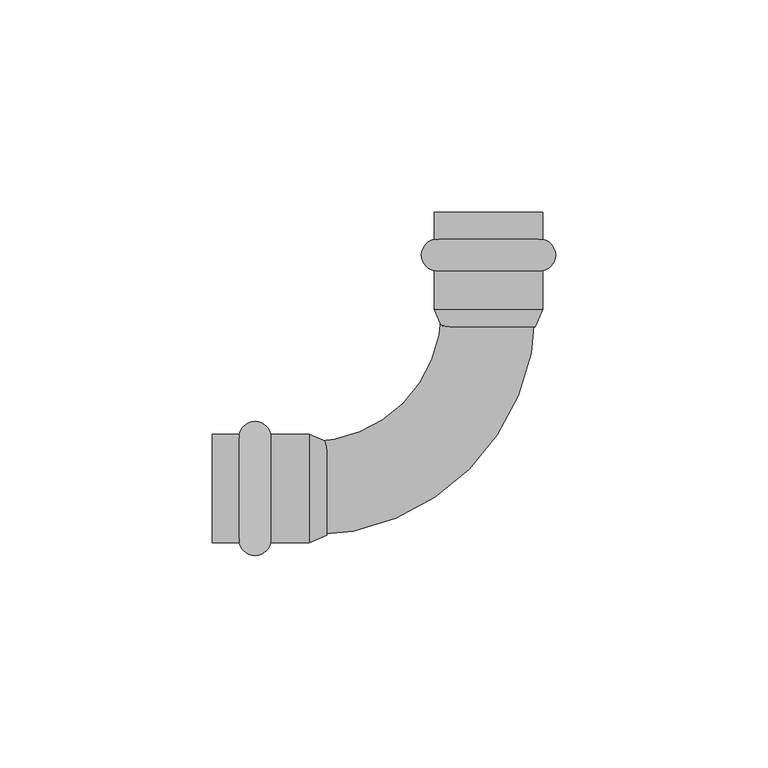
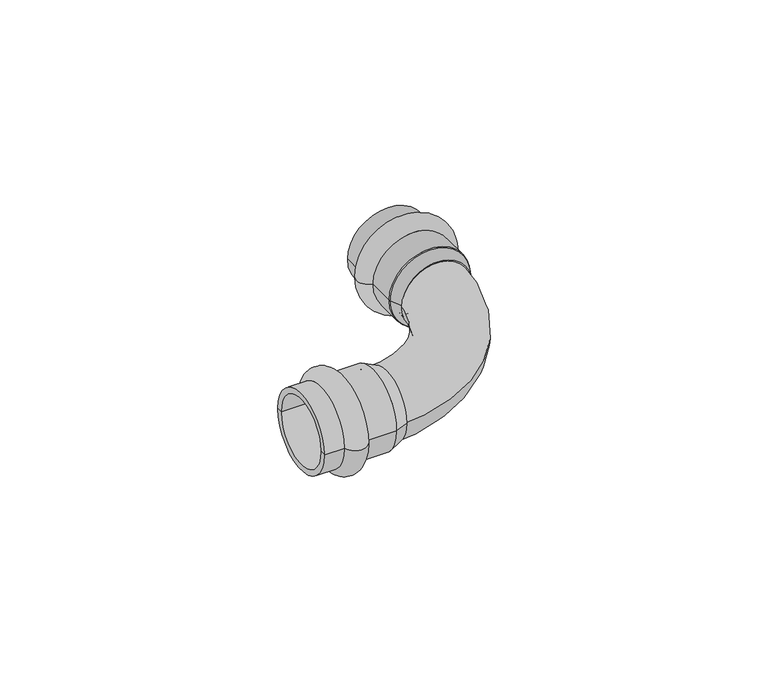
"""IFC4 building model written with IfcOpenShell, lengths in millimetres: pipe fitting geometry, VALTEC_VTi.951.I_Угольник 90° (раструб-раструб) нержавеющая сталь : VTi.951.I."""

from ifc_helpers import new_model, si_unit, point, frame, origin, place, context, project, spatial, polyline, circle_curve, ellipse_curve, trimmed, source, transform, mapped, element, save
from ifc_brep_helpers import plane_surface, cylinder_surface, revolved_surface, advanced_brep


def pipe_fitting_c759b61a(model_context):
    return source(origin(), model_context, "Body", "AdvancedBrep", [
        advanced_brep(
        [(-58.6242346, -12.8, 0.0), (-58.6242346, 12.8, 0.0), (-51.2757654, 12.8, 0.0), (-51.2757654, -12.8, 0.0), (-65.0, -12.8, 0.0), (-65.0, 12.8, 0.0), (-65.0, -11.0, 0.0), (-65.0, 11.0, 0.0), (-42.25, -11.0, 0.0), (-42.25, 11.0, 0.0), (-42.25, -12.8, 0.0), (-42.25, 12.8, 0.0)],
        [
            (0, 1, circle_curve(frame((-58.6242346, 0.0, 0.0), z_axis=(1.0, 0.0, 0.0), x_axis=(0.0, 1.0, 0.0)), 12.8)),
            (1, 2, circle_curve(frame((-54.95, 12.05, 0.0), z_axis=(0.0, 0.0, -1.0), x_axis=(1.0, 0.0, 0.0)), 3.75)),
            (2, 3, circle_curve(frame((-51.2757654, 0.0, 0.0), z_axis=(-1.0, 0.0, 0.0), x_axis=(0.0, 1.0, 0.0)), 12.8)),
            (3, 0, circle_curve(frame((-54.95, -12.05, 0.0), z_axis=(0.0, 0.0, -1.0), x_axis=(1.0, 0.0, 0.0)), 3.75)),
            (1, 0, circle_curve(frame((-58.6242346, 0.0, 0.0), z_axis=(1.0, 0.0, 0.0), x_axis=(0.0, 1.0, 0.0)), 12.8)),
            (3, 2, circle_curve(frame((-51.2757654, 0.0, 0.0), z_axis=(-1.0, 0.0, 0.0), x_axis=(0.0, 1.0, 0.0)), 12.8)),
            (4, 5, circle_curve(frame((-65.0, 0.0, 0.0), z_axis=(1.0, 0.0, 0.0), x_axis=(0.0, 1.0, 0.0)), 12.8)),
            (5, 1),
            (0, 4),
            (5, 4, circle_curve(frame((-65.0, 0.0, 0.0), z_axis=(1.0, 0.0, 0.0), x_axis=(0.0, 1.0, 0.0)), 12.8)),
            (6, 7, circle_curve(frame((-65.0, 0.0, 0.0), z_axis=(1.0, 0.0, 0.0), x_axis=(0.0, 1.0, 0.0)), 11.0)),
            (7, 5),
            (4, 6),
            (7, 6, circle_curve(frame((-65.0, 0.0, 0.0), z_axis=(1.0, 0.0, 0.0), x_axis=(0.0, 1.0, 0.0)), 11.0)),
            (8, 9, circle_curve(frame((-42.25, 0.0, 0.0), z_axis=(1.0, 0.0, 0.0), x_axis=(0.0, 1.0, 0.0)), 11.0)),
            (9, 7),
            (6, 8),
            (9, 8, circle_curve(frame((-42.25, 0.0, 0.0), z_axis=(1.0, 0.0, 0.0), x_axis=(0.0, 1.0, 0.0)), 11.0)),
            (10, 11, circle_curve(frame((-42.25, 0.0, 0.0), z_axis=(1.0, 0.0, 0.0), x_axis=(0.0, 1.0, 0.0)), 12.8)),
            (11, 9),
            (8, 10),
            (11, 10, circle_curve(frame((-42.25, 0.0, 0.0), z_axis=(1.0, 0.0, 0.0), x_axis=(0.0, 1.0, 0.0)), 12.8)),
            (2, 11),
            (10, 3),
        ],
        [
            revolved_surface(trimmed(ellipse_curve(frame((-54.95, 12.05, 0.0), z_axis=(0.0, 0.0, 1.0), x_axis=(1.0, 0.0, 0.0)), 3.75, 3.75), [point((-51.2757654, 12.8, 0.0))], [point((-58.6242346, 12.8, 0.0))], True, "CARTESIAN"), (-68.5364426, 0.0, 0.0), (-1.0, 0.0, 0.0)),
            cylinder_surface(frame((-68.5364426, 0.0, 0.0), z_axis=(-1.0, 0.0, 0.0), x_axis=(0.0, 1.0, 0.0)), 12.8),
            plane_surface(frame((-65.0, 0.0, 0.0), z_axis=(-1.0, 0.0, 0.0), x_axis=(0.0, 1.0, 0.0))),
            revolved_surface(polyline([(-65.0, 11.0, 0.0), (-42.25, 11.0, 0.0)]), (-68.5364426, 0.0, 0.0), (-1.0, 0.0, 0.0)),
            plane_surface(frame((-42.25, 0.0, 0.0), z_axis=(1.0, 0.0, 0.0), x_axis=(0.0, 1.0, 0.0))),
        ],
        [
            (0, [[1, 2, 3, 4]]),
            (0, [[5, -4, 6, -2]]),
            (1, [[7, 8, -1, 9]]),
            (1, [[10, -9, -5, -8]]),
            (2, [[11, 12, -7, 13]]),
            (2, [[14, -13, -10, -12]]),
            (3, [[15, 16, -11, 17]]),
            (3, [[18, -17, -14, -16]]),
            (4, [[19, 20, -15, 21]]),
            (4, [[22, -21, -18, -20]]),
            (1, [[-3, 23, -19, 24]]),
            (1, [[-6, -24, -22, -23]]),
        ],
    ),
        advanced_brep(
        [(-12.8, 58.6242346, 0.0), (12.8, 58.6242346, 0.0), (12.8, 51.2757654, 0.0), (-12.8, 51.2757654, 0.0), (-12.8, 65.0, 0.0), (12.8, 65.0, 0.0), (-11.0, 65.0, 0.0), (11.0, 65.0, 0.0), (-11.0, 42.25, 0.0), (11.0, 42.25, 0.0), (-12.8, 42.25, 0.0), (12.8, 42.25, 0.0)],
        [
            (0, 1, circle_curve(frame((0.0, 58.6242346, 0.0), z_axis=(0.0, -1.0, 0.0), x_axis=(1.0, 0.0, 0.0)), 12.8)),
            (1, 2, circle_curve(frame((12.05, 54.95, 0.0), z_axis=(0.0, 0.0, -1.0), x_axis=(0.0, -1.0, 0.0)), 3.75)),
            (2, 3, circle_curve(frame((0.0, 51.2757654, 0.0), z_axis=(0.0, 1.0, 0.0), x_axis=(1.0, 0.0, 0.0)), 12.8)),
            (3, 0, circle_curve(frame((-12.05, 54.95, 0.0), z_axis=(0.0, 0.0, -1.0), x_axis=(0.0, -1.0, 0.0)), 3.75)),
            (1, 0, circle_curve(frame((0.0, 58.6242346, 0.0), z_axis=(0.0, -1.0, 0.0), x_axis=(1.0, 0.0, 0.0)), 12.8)),
            (3, 2, circle_curve(frame((0.0, 51.2757654, 0.0), z_axis=(0.0, 1.0, 0.0), x_axis=(1.0, 0.0, 0.0)), 12.8)),
            (4, 5, circle_curve(frame((0.0, 65.0, 0.0), z_axis=(0.0, -1.0, 0.0), x_axis=(1.0, 0.0, 0.0)), 12.8)),
            (5, 1),
            (0, 4),
            (5, 4, circle_curve(frame((0.0, 65.0, 0.0), z_axis=(0.0, -1.0, 0.0), x_axis=(1.0, 0.0, 0.0)), 12.8)),
            (6, 7, circle_curve(frame((0.0, 65.0, 0.0), z_axis=(0.0, -1.0, 0.0), x_axis=(1.0, 0.0, 0.0)), 11.0)),
            (7, 5),
            (4, 6),
            (7, 6, circle_curve(frame((0.0, 65.0, 0.0), z_axis=(0.0, -1.0, 0.0), x_axis=(1.0, 0.0, 0.0)), 11.0)),
            (8, 9, circle_curve(frame((0.0, 42.25, 0.0), z_axis=(0.0, -1.0, 0.0), x_axis=(1.0, 0.0, 0.0)), 11.0)),
            (9, 7),
            (6, 8),
            (9, 8, circle_curve(frame((0.0, 42.25, 0.0), z_axis=(0.0, -1.0, 0.0), x_axis=(1.0, 0.0, 0.0)), 11.0)),
            (10, 11, circle_curve(frame((0.0, 42.25, 0.0), z_axis=(0.0, -1.0, 0.0), x_axis=(1.0, 0.0, 0.0)), 12.8)),
            (11, 9),
            (8, 10),
            (11, 10, circle_curve(frame((0.0, 42.25, 0.0), z_axis=(0.0, -1.0, 0.0), x_axis=(1.0, 0.0, 0.0)), 12.8)),
            (2, 11),
            (10, 3),
        ],
        [
            revolved_surface(trimmed(ellipse_curve(frame((12.05, 54.95, 0.0), z_axis=(0.0, 0.0, 1.0), x_axis=(0.0, -1.0, 0.0)), 3.75, 3.75), [point((12.8, 51.2757654, 0.0))], [point((12.8, 58.6242346, 0.0))], True, "CARTESIAN"), (0.0, 68.5364426, 0.0), (0.0, 1.0, 0.0)),
            cylinder_surface(frame((0.0, 68.5364426, 0.0), z_axis=(0.0, 1.0, 0.0), x_axis=(1.0, 0.0, 0.0)), 12.8),
            plane_surface(frame((0.0, 65.0, 0.0), z_axis=(0.0, 1.0, 0.0), x_axis=(1.0, 0.0, 0.0))),
            revolved_surface(polyline([(11.0, 65.0, 0.0), (11.0, 42.25, 0.0)]), (0.0, 68.5364426, 0.0), (0.0, 1.0, 0.0)),
            plane_surface(frame((0.0, 42.25, 0.0), z_axis=(0.0, -1.0, 0.0), x_axis=(1.0, 0.0, 0.0))),
        ],
        [
            (0, [[1, 2, 3, 4]]),
            (0, [[5, -4, 6, -2]]),
            (1, [[7, 8, -1, 9]]),
            (1, [[10, -9, -5, -8]]),
            (2, [[11, 12, -7, 13]]),
            (2, [[14, -13, -10, -12]]),
            (3, [[15, 16, -11, 17]]),
            (3, [[18, -17, -14, -16]]),
            (4, [[19, 20, -15, 21]]),
            (4, [[22, -21, -18, -20]]),
            (1, [[-3, 23, -19, 24]]),
            (1, [[-6, -24, -22, -23]]),
        ],
    ),
        advanced_brep(
        [(-42.25, -12.8, 0.0), (-42.25, 12.8, 0.0), (-38.025, -11.0, 0.0), (-38.025, 11.0, 0.0)],
        [
            (0, 1, circle_curve(frame((-42.25, 0.0, 0.0), z_axis=(-1.0, 0.0, 0.0), x_axis=(0.0, -1.0, 0.0)), 12.8)),
            (1, 0, circle_curve(frame((-42.25, 0.0, 0.0), z_axis=(-1.0, 0.0, 0.0), x_axis=(0.0, 1.0, 0.0)), 12.8)),
            (2, 3, circle_curve(frame((-38.025, 0.0, 0.0), z_axis=(1.0, 0.0, 0.0), x_axis=(0.0, 1.0, 0.0)), 11.0)),
            (3, 2, circle_curve(frame((-38.025, 0.0, 0.0), z_axis=(1.0, 0.0, 0.0), x_axis=(0.0, -1.0, 0.0)), 11.0)),
            (2, 0),
            (1, 3),
        ],
        [
            plane_surface(frame((-42.25, 0.0, 0.0), z_axis=(-1.0, 0.0, 0.0), x_axis=(0.0, 0.0, -1.0))),
            plane_surface(frame((-38.025, 0.0, 0.0), z_axis=(1.0, 0.0, 0.0), x_axis=(0.0, 0.0, -1.0))),
            revolved_surface(polyline([(-38.025, -10.999999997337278, 0.0), (-42.25, -12.8, 0.0)]), (-12.2055556, 0.0, 0.0), (-1.0, 0.0, 0.0)),
            revolved_surface(polyline([(-38.025, 10.999999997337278, 0.0), (-42.25, 12.8, 0.0)]), (-12.2055556, 0.0, 0.0), (-1.0, 0.0, 0.0)),
        ],
        [
            (0, [[1, 2]]),
            (1, [[3, 4]]),
            (2, [[-3, 5, -2, 6]]),
            (3, [[-4, -6, -1, -5]]),
        ],
    ),
        advanced_brep(
        [(-12.8, 42.25, 0.0), (12.8, 42.25, 0.0), (-11.0, 38.025, 0.0), (11.0, 38.025, 0.0)],
        [
            (0, 1, circle_curve(frame((0.0, 42.25, 0.0), z_axis=(0.0, 1.0, 0.0), x_axis=(-1.0, 0.0, 0.0)), 12.8)),
            (1, 0, circle_curve(frame((0.0, 42.25, 0.0), z_axis=(0.0, 1.0, 0.0), x_axis=(1.0, 0.0, 0.0)), 12.8)),
            (2, 3, circle_curve(frame((0.0, 38.025, 0.0), z_axis=(0.0, -1.0, 0.0), x_axis=(1.0, 0.0, 0.0)), 11.0)),
            (3, 2, circle_curve(frame((0.0, 38.025, 0.0), z_axis=(0.0, -1.0, 0.0), x_axis=(-1.0, 0.0, 0.0)), 11.0)),
            (2, 0),
            (1, 3),
        ],
        [
            plane_surface(frame((0.0, 42.25, 0.0), z_axis=(0.0, 1.0, 0.0), x_axis=(0.0, 0.0, -1.0))),
            plane_surface(frame((0.0, 38.025, 0.0), z_axis=(0.0, -1.0, 0.0), x_axis=(0.0, 0.0, -1.0))),
            revolved_surface(polyline([(-10.999999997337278, 38.025, 0.0), (-12.8, 42.25, 0.0)]), (0.0, 12.2055556, 0.0), (0.0, 1.0, 0.0)),
            revolved_surface(polyline([(10.999999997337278, 38.025, 0.0), (12.8, 42.25, 0.0)]), (0.0, 12.2055556, 0.0), (0.0, 1.0, 0.0)),
        ],
        [
            (0, [[1, 2]]),
            (1, [[3, 4]]),
            (2, [[-3, 5, -2, 6]]),
            (3, [[-4, -6, -1, -5]]),
        ],
    ),
        advanced_brep(
        [(-42.25, -11.0551605, 0.0), (-42.25, 10.9448395, 0.0), (11.0551605, 42.25, 0.0), (-10.9448395, 42.25, 0.0)],
        [
            (0, 1, circle_curve(frame((-42.25, -0.0551605, 0.0), z_axis=(-1.0, 0.0, 0.0), x_axis=(0.0, 1.0, 0.0)), 11.0)),
            (1, 0, circle_curve(frame((-42.25, -0.0551605, 0.0), z_axis=(-1.0, 0.0, 0.0), x_axis=(0.0, 1.0, 0.0)), 11.0)),
            (2, 3, circle_curve(frame((0.0551605, 42.25, 0.0), z_axis=(0.0, 1.0, 0.0), x_axis=(-1.0, 0.0, 0.0)), 11.0)),
            (3, 2, circle_curve(frame((0.0551605, 42.25, 0.0), z_axis=(0.0, 1.0, 0.0), x_axis=(-1.0, 0.0, 0.0)), 11.0)),
            (3, 1, circle_curve(frame((-42.25, 42.25, 0.0), z_axis=(0.0, 0.0, -1.0), x_axis=(0.0, -1.0, 0.0)), 31.3051605)),
            (0, 2, circle_curve(frame((-42.25, 42.25, 0.0), z_axis=(0.0, 0.0, 1.0), x_axis=(0.0, -1.0, 0.0)), 53.3051605)),
        ],
        [
            plane_surface(frame((-42.25, 0.0, 0.0), z_axis=(-1.0, 0.0, 0.0), x_axis=(0.0, 0.0, 1.0))),
            plane_surface(frame((0.0, 42.25, 0.0), z_axis=(0.0, 1.0, 0.0), x_axis=(0.0, 0.0, 1.0))),
            revolved_surface(trimmed(ellipse_curve(frame((-42.25, -0.0551605, 0.0), z_axis=(-1.0, 0.0, 0.0), x_axis=(0.0, 1.0, 0.0)), 11.0, 11.0), [point((-42.25, -11.0551605, 0.0))], [point((-42.25, 10.9448395, 0.0))], True, "CARTESIAN"), (-42.25, 42.25, 0.0), (0.0, 0.0, 1.0)),
            revolved_surface(trimmed(ellipse_curve(frame((-42.25, -0.0551605, 0.0), z_axis=(-1.0, 0.0, 0.0), x_axis=(0.0, 1.0, 0.0)), 11.0, 11.0), [point((-42.25, 10.9448395, 0.0))], [point((-42.25, -11.0551605, 0.0))], True, "CARTESIAN"), (-42.25, 42.25, 0.0), (0.0, 0.0, 1.0)),
        ],
        [
            (0, [[1, 2]]),
            (1, [[3, 4]]),
            (2, [[5, -1, 6, -4]]),
            (3, [[-6, -2, -5, -3]]),
        ],
    ),
    ])


if __name__ == "__main__":
    model = new_model("IFC4")
    model_context = context("Model", 3, world=origin())
    ifc_project = project(units=[si_unit("LENGTHUNIT", "METRE", prefix="MILLI")], contexts=[model_context])
    site = spatial("IfcSite", under=ifc_project)
    building = spatial("IfcBuilding", under=site)
    placement = place(None, origin())
    pipe_fitting_shape = pipe_fitting_c759b61a(model_context)
    element("IfcPipeFitting", 1, ObjectType="VALTEC_VTi.951.I_Угольник 90° (раструб-раструб) нержавеющая сталь : VTi.951.I", at=placement, inside=building, context=model_context, shape_type="MappedRepresentation", body=[
        mapped(pipe_fitting_shape, transform((0.0, 0.0, 0.0), x_axis=(1.0, 0.0, 0.0), y_axis=(0.0, 1.0, 0.0), z_axis=(0.0, 0.0, 1.0))),
    ])
    save(model, "model.ifc")
